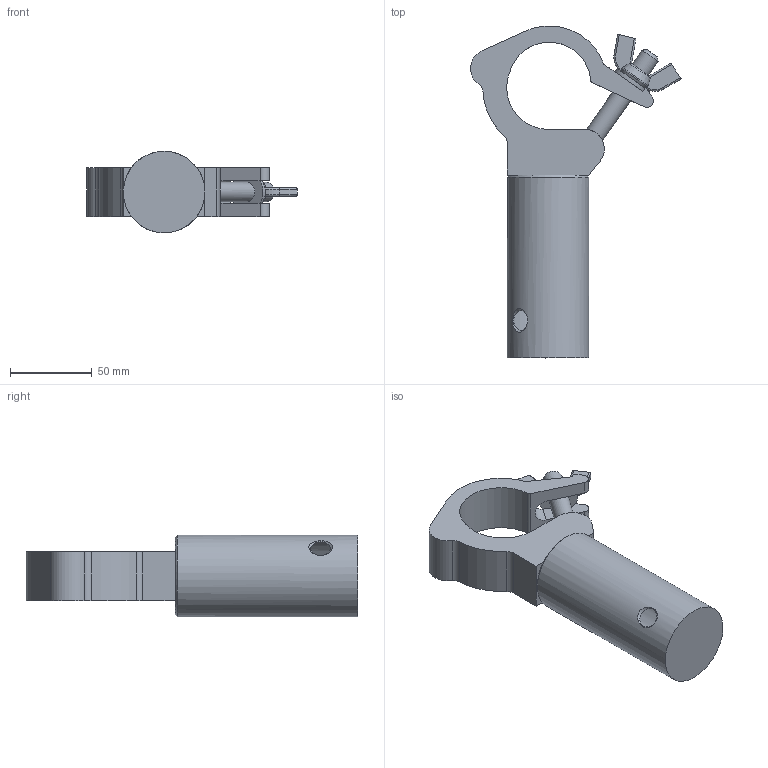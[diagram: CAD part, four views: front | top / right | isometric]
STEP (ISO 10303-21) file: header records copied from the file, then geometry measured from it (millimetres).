
FILE_DESCRIPTION(/* description */ (''),/* implementation_level */ '2;1');
FILE_NAME(/* name */ 'K:\Techniek\CAD Tekeningen\Inventor transport\Cas\Cad Blokken\Catalogus\CS1-DCxx\CS1-DC14S.stp',/* time_stamp */ '2021-08-02T11:06:02+02:00',/* author */ ('Cas'),/* organization */ (''),/* preprocessor_version */ 'ST-DEVELOPER v18',/* originating_system */ 'Autodesk Inventor 2020',/* authorisation */ '');
FILE_SCHEMA (('AUTOMOTIVE_DESIGN { 1 0 10303 214 3 1 1 }'));
Length unit declared in the file: millimetre
Products named in the file (1): CS1-DC14S
Bounding box: 129.05 x 203.33 x 49.92 mm (x, y, z)
Volume: 331630.4 mm3; surface area: 46044.8 mm2
Topology: 1 solids, 1 shells, 81 faces, 225 edges, 145 vertices
Faces by surface type: plane 37, cylinder 28, torus 8, cone 8
Full cylindrical faces by diameter (mm): 12 x2, 50 x1
Entity records: 2997 total; most frequent: CARTESIAN_POINT 732, ORIENTED_EDGE 458, DIRECTION 438, EDGE_CURVE 229, AXIS2_PLACEMENT_3D 165, VERTEX_POINT 145, LINE 108, VECTOR 108
